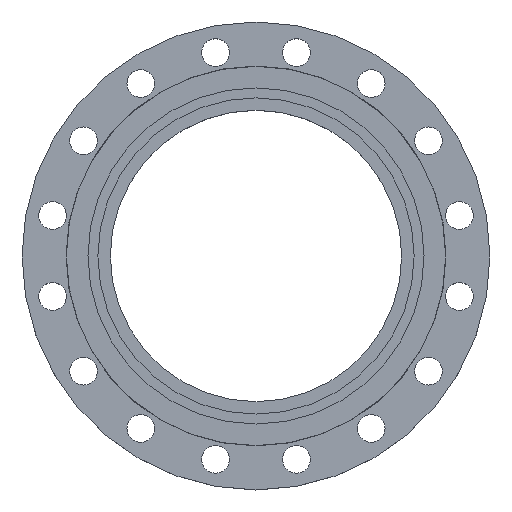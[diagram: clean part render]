
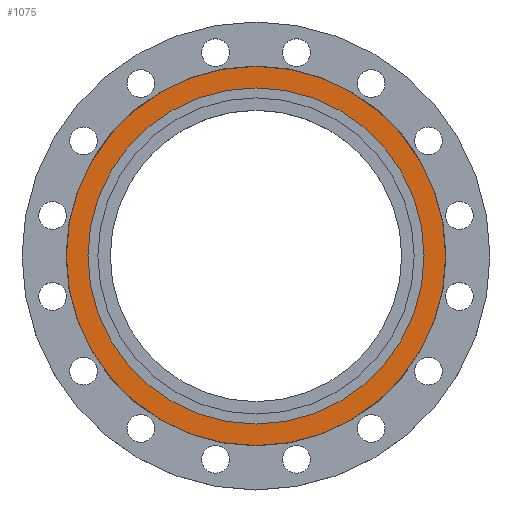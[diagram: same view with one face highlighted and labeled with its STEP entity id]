
A CAD part, top view. The second image highlights one B-rep face of the part: STEP entity #1075.
In plain terms, the highlighted planar face has unit normal (0, 0, 1).
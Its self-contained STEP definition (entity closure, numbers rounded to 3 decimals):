
#1 = PLANE ( 'NONE',  #817 ) ;
#3 = FACE_BOUND ( 'NONE', #1240, .T. ) ;
#5 = FACE_OUTER_BOUND ( 'NONE', #719, .T. ) ;
#45 = CARTESIAN_POINT ( 'NONE',  ( -237., 0., 0. ) ) ;
#59 = CIRCLE ( 'NONE', #1540, 237. ) ;
#161 = CARTESIAN_POINT ( 'NONE',  ( 237., 0., 0. ) ) ;
#203 = CARTESIAN_POINT ( 'NONE',  ( 0., 0., 0. ) ) ;
#212 = DIRECTION ( 'NONE',  ( -1., 0., 0. ) ) ;
#215 = DIRECTION ( 'NONE',  ( 0., 0., -1. ) ) ;
#216 = CARTESIAN_POINT ( 'NONE',  ( 0., 0., 0. ) ) ;
#245 = CARTESIAN_POINT ( 'NONE',  ( 267.5, 0., 0. ) ) ;
#273 = DIRECTION ( 'NONE',  ( 0., 0., -1. ) ) ;
#274 = DIRECTION ( 'NONE',  ( -1., 0., 0. ) ) ;
#290 = CARTESIAN_POINT ( 'NONE',  ( 0., 0., 0. ) ) ;
#303 = ORIENTED_EDGE ( 'NONE', *, *, #748, .F. ) ;
#305 = ORIENTED_EDGE ( 'NONE', *, *, #1750, .T. ) ;
#306 = ORIENTED_EDGE ( 'NONE', *, *, #1297, .T. ) ;
#335 = CIRCLE ( 'NONE', #1165, 237. ) ;
#454 = DIRECTION ( 'NONE',  ( 1., 0., 0. ) ) ;
#663 = EDGE_CURVE ( 'NONE', #1244, #704, #1148, .T. ) ;
#695 = DIRECTION ( 'NONE',  ( -1., 0., 0. ) ) ;
#699 = DIRECTION ( 'NONE',  ( 0., 0., -1. ) ) ;
#702 = CARTESIAN_POINT ( 'NONE',  ( 0., 0., 0. ) ) ;
#704 = VERTEX_POINT ( 'NONE', #245 ) ;
#719 = EDGE_LOOP ( 'NONE', ( #1581, #303 ) ) ;
#748 = EDGE_CURVE ( 'NONE', #704, #1244, #857, .T. ) ;
#794 = VERTEX_POINT ( 'NONE', #161 ) ;
#817 = AXIS2_PLACEMENT_3D ( 'NONE', #203, #1719, #454 ) ;
#857 = CIRCLE ( 'NONE', #864, 267.5 ) ;
#864 = AXIS2_PLACEMENT_3D ( 'NONE', #216, #215, #212 ) ;
#940 = DIRECTION ( 'NONE',  ( -1., 0., 0. ) ) ;
#941 = DIRECTION ( 'NONE',  ( 0., 0., -1. ) ) ;
#947 = CARTESIAN_POINT ( 'NONE',  ( 0., 0., 0. ) ) ;
#1056 = CARTESIAN_POINT ( 'NONE',  ( -267.5, 0., 0. ) ) ;
#1075 = ADVANCED_FACE ( 'NONE', ( #5, #3 ), #1, .T. ) ;
#1148 = CIRCLE ( 'NONE', #1149, 267.5 ) ;
#1149 = AXIS2_PLACEMENT_3D ( 'NONE', #290, #273, #274 ) ;
#1165 = AXIS2_PLACEMENT_3D ( 'NONE', #947, #941, #940 ) ;
#1240 = EDGE_LOOP ( 'NONE', ( #305, #306 ) ) ;
#1244 = VERTEX_POINT ( 'NONE', #1056 ) ;
#1297 = EDGE_CURVE ( 'NONE', #794, #1613, #335, .T. ) ;
#1540 = AXIS2_PLACEMENT_3D ( 'NONE', #702, #699, #695 ) ;
#1581 = ORIENTED_EDGE ( 'NONE', *, *, #663, .F. ) ;
#1613 = VERTEX_POINT ( 'NONE', #45 ) ;
#1719 = DIRECTION ( 'NONE',  ( 0., 0., 1. ) ) ;
#1750 = EDGE_CURVE ( 'NONE', #1613, #794, #59, .T. ) ;
